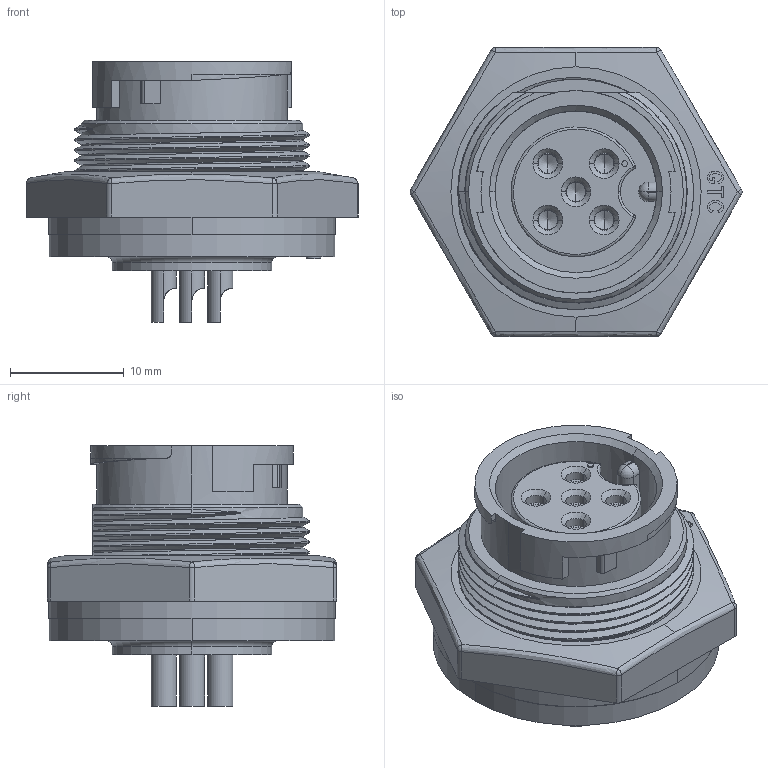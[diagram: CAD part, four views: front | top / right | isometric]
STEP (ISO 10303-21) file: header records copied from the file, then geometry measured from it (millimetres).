
FILE_DESCRIPTION (( 'STEP AP203' ), '1' );
FILE_NAME ('RR-153200-03050.STEP', '2025-02-26T07:38:48', ( '' ), ( '' ), 'SwSTEP 2.0', 'SolidWorks 2019', '' );
FILE_SCHEMA (( 'CONFIG_CONTROL_DESIGN' ));
Length unit declared in the file: millimetre
Products named in the file (1): RR-153200-03050
Bounding box: 29.17 x 25.4 x 22.9 mm (x, y, z)
Volume: 5777.2 mm3; surface area: 5800.9 mm2
Topology: 3 solids, 3 shells, 583 faces, 1565 edges, 997 vertices
Faces by surface type: plane 253, cylinder 153, bspline 94, cone 71, sphere 6, torus 6
Entity records: 49162 total; most frequent: CARTESIAN_POINT 35678, ORIENTED_EDGE 3078, DIRECTION 2367, EDGE_CURVE 1539, VERTEX_POINT 995, AXIS2_PLACEMENT_3D 857, VECTOR 653, LINE 653
